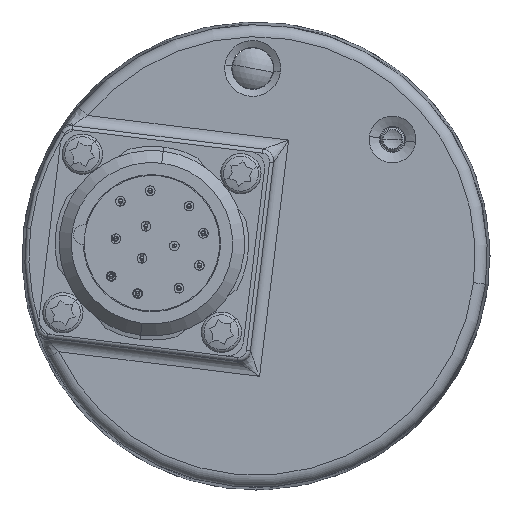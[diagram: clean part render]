
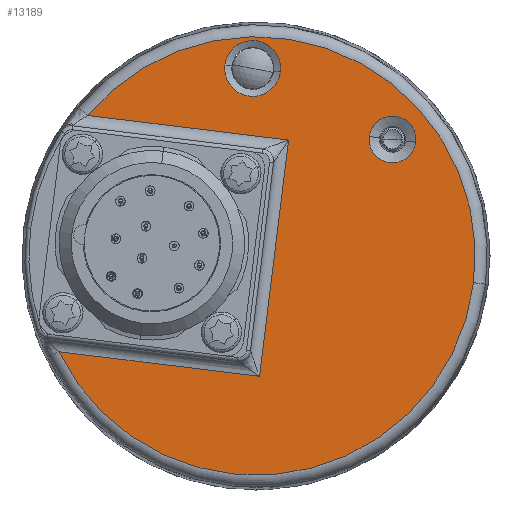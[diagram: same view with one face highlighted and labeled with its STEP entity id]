
A CAD part, left-side view. The second image highlights one B-rep face of the part: STEP entity #13189.
In plain terms, the highlighted planar face has unit normal (-1, 0, 0).
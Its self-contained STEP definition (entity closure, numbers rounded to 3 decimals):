
#1762 = EDGE_CURVE ( 'NONE', #1774, #1778, #2820, .T. ) ;
#1774 = VERTEX_POINT ( 'NONE', #2827 ) ;
#1778 = VERTEX_POINT ( 'NONE', #2826 ) ;
#2820 = CIRCLE ( 'NONE', #2838, 3.466 ) ;
#2823 = DIRECTION ( 'NONE',  ( 1., 0., 0. ) ) ;
#2824 = CARTESIAN_POINT ( 'NONE',  ( -19., 0.406, 23.246 ) ) ;
#2826 = CARTESIAN_POINT ( 'NONE',  ( -19., -3.034, 22.824 ) ) ;
#2827 = CARTESIAN_POINT ( 'NONE',  ( -19., 3.846, 23.669 ) ) ;
#2834 = DIRECTION ( 'NONE',  ( 0., -0.993, -0.122 ) ) ;
#2838 = AXIS2_PLACEMENT_3D ( 'NONE', #2824, #2823, #2834 ) ;
#4598 = CARTESIAN_POINT ( 'NONE',  ( -19., 0., 0. ) ) ;
#4599 = CARTESIAN_POINT ( 'NONE',  ( -19., 24.448, -11.859 ) ) ;
#4600 = CARTESIAN_POINT ( 'NONE',  ( -19., -0.436, -14.914 ) ) ;
#4601 = DIRECTION ( 'NONE',  ( 0., 0.993, 0.122 ) ) ;
#4602 = VECTOR ( 'NONE', #4601, 1000. ) ;
#4603 = CARTESIAN_POINT ( 'NONE',  ( -19., 27.014, -11.544 ) ) ;
#4604 = LINE ( 'NONE', #4603, #4602 ) ;
#4667 = DIRECTION ( 'NONE',  ( 0., -0.993, -0.122 ) ) ;
#4668 = DIRECTION ( 'NONE',  ( -1., 0., 0. ) ) ;
#4669 = AXIS2_PLACEMENT_3D ( 'NONE', #4598, #4668, #4667 ) ;
#4670 = CIRCLE ( 'NONE', #4669, 27.173 ) ;
#4729 = VECTOR ( 'NONE', #4746, 1000. ) ;
#4730 = CARTESIAN_POINT ( 'NONE',  ( -19., -0.618, -13.425 ) ) ;
#4731 = LINE ( 'NONE', #4730, #4729 ) ;
#4746 = DIRECTION ( 'NONE',  ( 0., 0.122, -0.993 ) ) ;
#9845 = CIRCLE ( 'NONE', #9960, 2.899 ) ;
#9866 = CARTESIAN_POINT ( 'NONE',  ( -19., -19.796, 14.097 ) ) ;
#9957 = DIRECTION ( 'NONE',  ( 0., -0.993, -0.122 ) ) ;
#9958 = DIRECTION ( 'NONE',  ( 1., 0., 0. ) ) ;
#9959 = CARTESIAN_POINT ( 'NONE',  ( -19., -16.919, 14.45 ) ) ;
#9960 = AXIS2_PLACEMENT_3D ( 'NONE', #9959, #9958, #9957 ) ;
#10008 = DIRECTION ( 'NONE',  ( 0., -0.993, -0.122 ) ) ;
#10009 = DIRECTION ( 'NONE',  ( -1., 0., 0. ) ) ;
#10011 = CARTESIAN_POINT ( 'NONE',  ( -19., 0., 0. ) ) ;
#10012 = AXIS2_PLACEMENT_3D ( 'NONE', #10011, #10009, #10008 ) ;
#10013 = CIRCLE ( 'NONE', #10012, 27.173 ) ;
#10025 = CARTESIAN_POINT ( 'NONE',  ( -19., 20.853, 17.421 ) ) ;
#10057 = CARTESIAN_POINT ( 'NONE',  ( -19., -26.97, -3.312 ) ) ;
#10114 = CARTESIAN_POINT ( 'NONE',  ( -19., -14.042, 14.804 ) ) ;
#10541 = DIRECTION ( 'NONE',  ( 0., -0.993, -0.122 ) ) ;
#10542 = DIRECTION ( 'NONE',  ( 1., 0., 0. ) ) ;
#10543 = AXIS2_PLACEMENT_3D ( 'NONE', #10588, #10542, #10541 ) ;
#10544 = CIRCLE ( 'NONE', #10543, 2.899 ) ;
#10559 = CARTESIAN_POINT ( 'NONE',  ( -19., 0.406, 23.246 ) ) ;
#10584 = DIRECTION ( 'NONE',  ( 0., -0.993, -0.122 ) ) ;
#10585 = DIRECTION ( 'NONE',  ( 1., 0., 0. ) ) ;
#10586 = AXIS2_PLACEMENT_3D ( 'NONE', #10559, #10585, #10584 ) ;
#10587 = CIRCLE ( 'NONE', #10586, 3.466 ) ;
#10588 = CARTESIAN_POINT ( 'NONE',  ( -19., -16.919, 14.45 ) ) ;
#11118 = CARTESIAN_POINT ( 'NONE',  ( -19., -4.031, 14.366 ) ) ;
#11178 = FACE_OUTER_BOUND ( 'NONE', #13187, .T. ) ;
#11179 = FACE_BOUND ( 'NONE', #13184, .T. ) ;
#11180 = FACE_BOUND ( 'NONE', #13190, .T. ) ;
#11208 = DIRECTION ( 'NONE',  ( 0., -0.993, -0.122 ) ) ;
#11209 = VECTOR ( 'NONE', #11208, 1000. ) ;
#11210 = CARTESIAN_POINT ( 'NONE',  ( -19., -2.542, 14.549 ) ) ;
#11211 = DIRECTION ( 'NONE',  ( 0., -0.993, -0.122 ) ) ;
#11212 = DIRECTION ( 'NONE',  ( 1., 0., 0. ) ) ;
#11213 = CARTESIAN_POINT ( 'NONE',  ( -19., 0., 0. ) ) ;
#11214 = AXIS2_PLACEMENT_3D ( 'NONE', #11213, #11212, #11211 ) ;
#11215 = PLANE ( 'NONE',  #11214 ) ;
#11216 = LINE ( 'NONE', #11210, #11209 ) ;
#13052 = ORIENTED_EDGE ( 'NONE', *, *, #13053, .T. ) ;
#13053 = EDGE_CURVE ( 'NONE', #13054, #13055, #4604, .T. ) ;
#13054 = VERTEX_POINT ( 'NONE', #4600 ) ;
#13055 = VERTEX_POINT ( 'NONE', #4599 ) ;
#13057 = ORIENTED_EDGE ( 'NONE', *, *, #13058, .T. ) ;
#13058 = EDGE_CURVE ( 'NONE', #13055, #16149, #4670, .T. ) ;
#13059 = ORIENTED_EDGE ( 'NONE', *, *, #16182, .T. ) ;
#13094 = ORIENTED_EDGE ( 'NONE', *, *, #13095, .T. ) ;
#13095 = EDGE_CURVE ( 'NONE', #13196, #13054, #4731, .T. ) ;
#13103 = EDGE_CURVE ( 'NONE', #1778, #1774, #10587, .T. ) ;
#13104 = EDGE_CURVE ( 'NONE', #16196, #16262, #10544, .T. ) ;
#13128 = ORIENTED_EDGE ( 'NONE', *, *, #13194, .T. ) ;
#13181 = ORIENTED_EDGE ( 'NONE', *, *, #1762, .T. ) ;
#13183 = ORIENTED_EDGE ( 'NONE', *, *, #13103, .T. ) ;
#13184 = EDGE_LOOP ( 'NONE', ( #13185, #13186 ) ) ;
#13185 = ORIENTED_EDGE ( 'NONE', *, *, #16252, .T. ) ;
#13186 = ORIENTED_EDGE ( 'NONE', *, *, #13104, .T. ) ;
#13187 = EDGE_LOOP ( 'NONE', ( #13052, #13057, #13059, #13128, #13094 ) ) ;
#13189 = ADVANCED_FACE ( 'NONE', ( #11180, #11179, #11178 ), #11215, .F. ) ;
#13190 = EDGE_LOOP ( 'NONE', ( #13181, #13183 ) ) ;
#13194 = EDGE_CURVE ( 'NONE', #16180, #13196, #11216, .T. ) ;
#13196 = VERTEX_POINT ( 'NONE', #11118 ) ;
#16149 = VERTEX_POINT ( 'NONE', #10057 ) ;
#16180 = VERTEX_POINT ( 'NONE', #10025 ) ;
#16182 = EDGE_CURVE ( 'NONE', #16149, #16180, #10013, .T. ) ;
#16196 = VERTEX_POINT ( 'NONE', #9866 ) ;
#16252 = EDGE_CURVE ( 'NONE', #16262, #16196, #9845, .T. ) ;
#16262 = VERTEX_POINT ( 'NONE', #10114 ) ;
